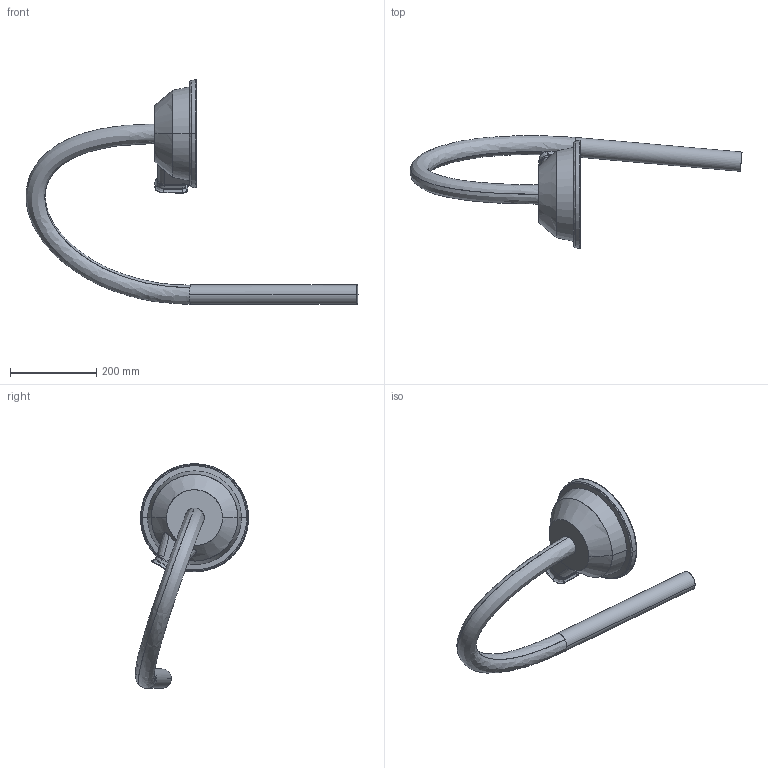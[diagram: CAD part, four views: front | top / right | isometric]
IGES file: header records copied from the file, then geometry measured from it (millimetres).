
Start section: SolidWorks IGES file using analytic representation for surfaces
Global section: file name: C:\Data\SAP_DOC\IRB6740_lightweight\6750S\IRB 6750S ASM\IRB6750S-LID-SW_270kg-320_OC_02_SW_J\IRB6750S-LID-SW_270kg-320_OC_02_IGES_J\IRB6750S-ALL-OC_00_LINK03b_CABLE.igs; native system: SolidWorks 2024; preprocessor: SolidWorks 2024; author: SEJAOLS6; date: 260507.083920; units: millimetre
Bounding box: 771.12 x 262.95 x 521.86 mm (x, y, z)
Surface area: 322152.7 mm2 (no closed solid volume)
Topology: 0 solids, 0 shells, 106 faces, 1133 edges, 1133 vertices
Faces by surface type: bspline 66, revolution 40
